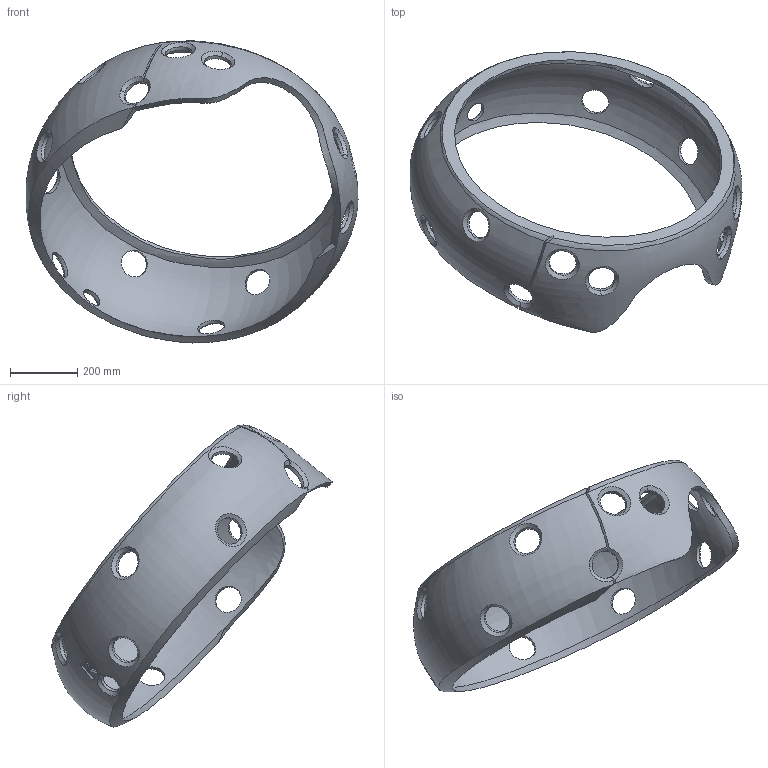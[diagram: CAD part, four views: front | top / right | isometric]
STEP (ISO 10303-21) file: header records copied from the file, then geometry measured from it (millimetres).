
FILE_DESCRIPTION(/* description */ (''),/* implementation_level */ '2;1');
FILE_NAME(/* name */ 'C:/Users/james/Desktop/Thingiverse/Designs/OculusQuest2ControllerCover/quest2_contollers_div2_Right v3.step',/* time_stamp */ '2021-01-31T18:59:40-05:00',/* author */ (''),/* organization */ (''),/* preprocessor_version */ 'ST-DEVELOPER v18.1',/* originating_system */ 'Autodesk Translation Framework v9.7.1.1290',/* authorisation */ '');
FILE_SCHEMA (('AUTOMOTIVE_DESIGN { 1 0 10303 214 3 1 1 }'));
Products named in the file (2): quest2_contollers_div2_Right; RootNode
Assembly tree (1 placements, depth 2):
  quest2_contollers_div2_Right
    RootNode
Bounding box: 989.6 x 836.91 x 900.3 mm (x, y, z)
Volume: 16513355.4 mm3; surface area: 1900630.7 mm2
Topology: 1 solids, 1 shells, 137 faces, 412 edges, 275 vertices
Faces by surface type: bspline 102, plane 19, cylinder 16
Full cylindrical faces by diameter (mm): 60.6 x1, 80.8 x15
Entity records: 32997 total; most frequent: CARTESIAN_POINT 30126, ORIENTED_EDGE 824, EDGE_CURVE 412, B_SPLINE_CURVE_WITH_KNOTS 319, VERTEX_POINT 275, EDGE_LOOP 169, DIRECTION 166, FACE_OUTER_BOUND 137
